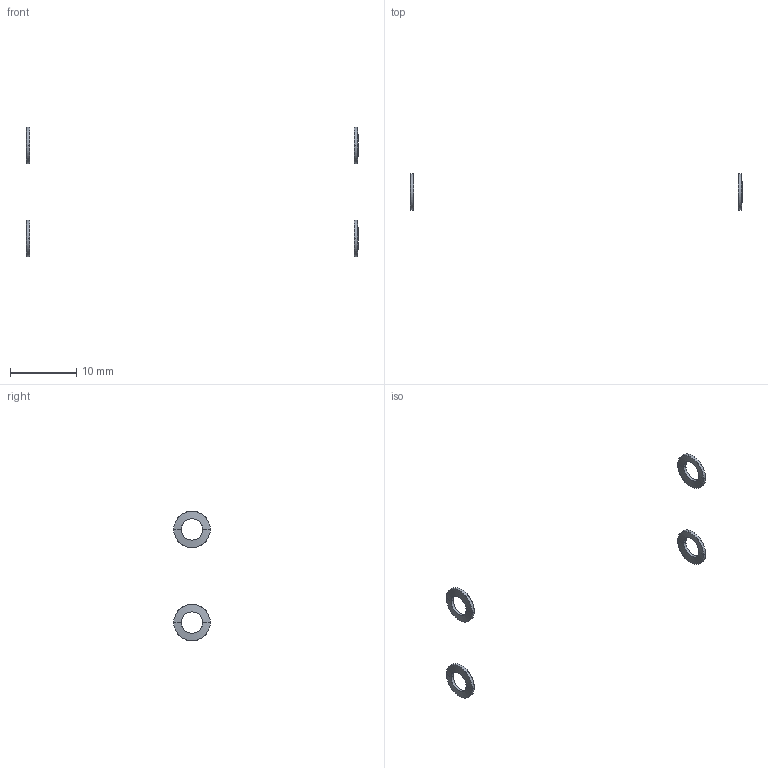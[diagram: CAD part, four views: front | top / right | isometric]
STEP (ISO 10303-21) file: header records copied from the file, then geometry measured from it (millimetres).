
FILE_DESCRIPTION(/* description */ (''),/* implementation_level */ '2;1');
FILE_NAME(/* name */ '7.x-cart#7.8#GTS3',/* time_stamp */ '2014-12-01T20:17:46+01:00',/* author */ (''),/* organization */ (''),/* preprocessor_version */ 'ST-DEVELOPER v14',/* originating_system */ '',/* authorisation */ '');
FILE_SCHEMA (('AUTOMOTIVE_DESIGN'));
Length unit declared in the file: millimetre
Products named in the file (2): Document; washer Schnorr-like, lock, M3
Assembly tree (2 placements, depth 2):
  Document
    washer Schnorr-like, lock, M3  x2
Bounding box: 50 x 5.5 x 19.52 mm (x, y, z)
Surface area: 176.1 mm2 (no closed solid volume)
Topology: 0 solids, 32 shells, 32 faces, 128 edges, 128 vertices
Faces by surface type: bspline 32
Entity records: 2175 total; most frequent: CARTESIAN_POINT 1061, B_SPLINE_CURVE_WITH_KNOTS 144, ORIENTED_EDGE 96, PCURVE 96, DEFINITIONAL_REPRESENTATION 96, SURFACE_CURVE 96, EDGE_CURVE 96, VERTEX_POINT 96
